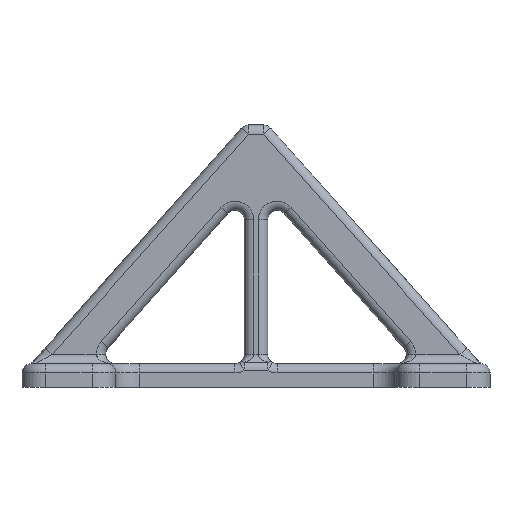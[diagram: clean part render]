
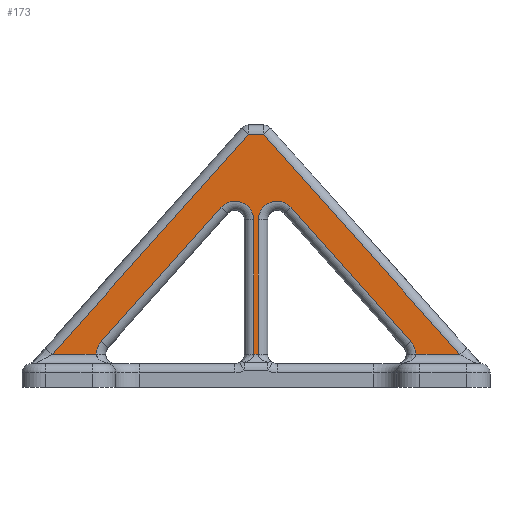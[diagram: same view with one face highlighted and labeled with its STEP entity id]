
A CAD part, left-side view. The second image highlights one B-rep face of the part: STEP entity #173.
In plain terms, the highlighted planar face has unit normal (-1, 0, 0).
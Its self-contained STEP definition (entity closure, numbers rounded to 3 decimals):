
#9 = CARTESIAN_POINT ( 'NONE',  ( -29., 7.485, 38.396 ) ) ;
#24 = CARTESIAN_POINT ( 'NONE',  ( -29., -43.535, 7. ) ) ;
#29 = CARTESIAN_POINT ( 'NONE',  ( -29., 33.119, 9.663 ) ) ;
#30 = CARTESIAN_POINT ( 'NONE',  ( -29., 43.535, 7. ) ) ;
#31 = CARTESIAN_POINT ( 'NONE',  ( -29., -1.604, 54. ) ) ;
#32 = CARTESIAN_POINT ( 'NONE',  ( -29., 1.604, 54. ) ) ;
#34 = CARTESIAN_POINT ( 'NONE',  ( -29., -7.485, 38.396 ) ) ;
#35 = CARTESIAN_POINT ( 'NONE',  ( -29., 34.134, 7. ) ) ;
#36 = CARTESIAN_POINT ( 'NONE',  ( -29., -33.119, 9.663 ) ) ;
#37 = CARTESIAN_POINT ( 'NONE',  ( -29., -34.134, 7. ) ) ;
#173 = ADVANCED_FACE ( 'NONE', ( #2105 ), #5973, .F. ) ;
#380 = AXIS2_PLACEMENT_3D ( 'NONE', #5971, #5976, #5977 ) ;
#804 = AXIS2_PLACEMENT_3D ( 'NONE', #1929, #1930, #1931 ) ;
#805 = AXIS2_PLACEMENT_3D ( 'NONE', #1938, #1939, #1940 ) ;
#806 = AXIS2_PLACEMENT_3D ( 'NONE', #1943, #1944, #1945 ) ;
#807 = AXIS2_PLACEMENT_3D ( 'NONE', #1956, #1957, #1958 ) ;
#1666 = LINE ( 'NONE', #1928, #1771 ) ;
#1767 = CIRCLE ( 'NONE', #804, 4. ) ;
#1770 = LINE ( 'NONE', #1932, #1773 ) ;
#1771 = VECTOR ( 'NONE', #1922, 1000. ) ;
#1772 = LINE ( 'NONE', #1934, #1775 ) ;
#1773 = VECTOR ( 'NONE', #1933, 1000. ) ;
#1774 = CIRCLE ( 'NONE', #805, 4. ) ;
#1775 = VECTOR ( 'NONE', #1935, 1000. ) ;
#1776 = LINE ( 'NONE', #1927, #1778 ) ;
#1777 = CIRCLE ( 'NONE', #806, 4. ) ;
#1778 = VECTOR ( 'NONE', #1926, 1000. ) ;
#1779 = LINE ( 'NONE', #1936, #1781 ) ;
#1780 = LINE ( 'NONE', #1946, #1783 ) ;
#1781 = VECTOR ( 'NONE', #1937, 1000. ) ;
#1782 = LINE ( 'NONE', #1948, #1785 ) ;
#1783 = VECTOR ( 'NONE', #1947, 1000. ) ;
#1784 = LINE ( 'NONE', #1950, #1787 ) ;
#1785 = VECTOR ( 'NONE', #1949, 1000. ) ;
#1786 = LINE ( 'NONE', #1952, #1789 ) ;
#1787 = VECTOR ( 'NONE', #1951, 1000. ) ;
#1788 = CIRCLE ( 'NONE', #807, 4. ) ;
#1789 = VECTOR ( 'NONE', #1953, 1000. ) ;
#1790 = LINE ( 'NONE', #1941, #1792 ) ;
#1792 = VECTOR ( 'NONE', #1942, 1000. ) ;
#1922 = DIRECTION ( 'NONE',  ( 0., 0., -1. ) ) ;
#1926 = DIRECTION ( 'NONE',  ( 0., -0.666, -0.746 ) ) ;
#1927 = CARTESIAN_POINT ( 'NONE',  ( -29., -17.582, 27.078 ) ) ;
#1928 = CARTESIAN_POINT ( 'NONE',  ( -29., 0.5, 56. ) ) ;
#1929 = CARTESIAN_POINT ( 'NONE',  ( -29., 4.5, 35.733 ) ) ;
#1930 = DIRECTION ( 'NONE',  ( 1., 0., 0. ) ) ;
#1931 = DIRECTION ( 'NONE',  ( 0., 1., 0. ) ) ;
#1932 = CARTESIAN_POINT ( 'NONE',  ( -29., -2.5, 7. ) ) ;
#1933 = DIRECTION ( 'NONE',  ( 0., -1., 0. ) ) ;
#1934 = CARTESIAN_POINT ( 'NONE',  ( -29., -0.5, 56. ) ) ;
#1935 = DIRECTION ( 'NONE',  ( 0., 0., 1. ) ) ;
#1936 = CARTESIAN_POINT ( 'NONE',  ( -29., -48., 7. ) ) ;
#1937 = DIRECTION ( 'NONE',  ( 0., -1., 0. ) ) ;
#1938 = CARTESIAN_POINT ( 'NONE',  ( -29., -4.5, 35.733 ) ) ;
#1939 = DIRECTION ( 'NONE',  ( 1., 0., 0. ) ) ;
#1940 = DIRECTION ( 'NONE',  ( 0., 1., 0. ) ) ;
#1941 = CARTESIAN_POINT ( 'NONE',  ( -29., -26.737, 76.754 ) ) ;
#1942 = DIRECTION ( 'NONE',  ( 0., -0.666, 0.746 ) ) ;
#1943 = CARTESIAN_POINT ( 'NONE',  ( -29., -30.134, 7. ) ) ;
#1944 = DIRECTION ( 'NONE',  ( 1., 0., 0. ) ) ;
#1945 = DIRECTION ( 'NONE',  ( 0., 1., 0. ) ) ;
#1946 = CARTESIAN_POINT ( 'NONE',  ( -29., -22.059, 31.072 ) ) ;
#1947 = DIRECTION ( 'NONE',  ( 0., 0.666, 0.746 ) ) ;
#1948 = CARTESIAN_POINT ( 'NONE',  ( -29., 2.5, 54. ) ) ;
#1949 = DIRECTION ( 'NONE',  ( 0., 1., 0. ) ) ;
#1950 = CARTESIAN_POINT ( 'NONE',  ( -29., -22.26, 80.749 ) ) ;
#1951 = DIRECTION ( 'NONE',  ( 0., 0.666, -0.746 ) ) ;
#1952 = CARTESIAN_POINT ( 'NONE',  ( -29., 34.599, 7. ) ) ;
#1953 = DIRECTION ( 'NONE',  ( 0., -1., 0. ) ) ;
#1956 = CARTESIAN_POINT ( 'NONE',  ( -29., 30.134, 7. ) ) ;
#1957 = DIRECTION ( 'NONE',  ( 1., 0., 0. ) ) ;
#1958 = DIRECTION ( 'NONE',  ( 0., 1., 0. ) ) ;
#2105 = FACE_OUTER_BOUND ( 'NONE', #6471, .T. ) ;
#3337 = CARTESIAN_POINT ( 'NONE',  ( -29., -0.5, 35.733 ) ) ;
#3343 = CARTESIAN_POINT ( 'NONE',  ( -29., -0.5, 7. ) ) ;
#3346 = CARTESIAN_POINT ( 'NONE',  ( -29., 0.5, 7. ) ) ;
#3354 = CARTESIAN_POINT ( 'NONE',  ( -29., 0.5, 35.733 ) ) ;
#4342 = ORIENTED_EDGE ( 'NONE', *, *, #6967, .T. ) ;
#4346 = ORIENTED_EDGE ( 'NONE', *, *, #6966, .T. ) ;
#4357 = ORIENTED_EDGE ( 'NONE', *, *, #6965, .T. ) ;
#4377 = ORIENTED_EDGE ( 'NONE', *, *, #6983, .T. ) ;
#4380 = ORIENTED_EDGE ( 'NONE', *, *, #6986, .T. ) ;
#4391 = ORIENTED_EDGE ( 'NONE', *, *, #6978, .T. ) ;
#4392 = ORIENTED_EDGE ( 'NONE', *, *, #6970, .T. ) ;
#4393 = ORIENTED_EDGE ( 'NONE', *, *, #6975, .T. ) ;
#4394 = ORIENTED_EDGE ( 'NONE', *, *, #6969, .T. ) ;
#4395 = ORIENTED_EDGE ( 'NONE', *, *, #6972, .T. ) ;
#4396 = ORIENTED_EDGE ( 'NONE', *, *, #6968, .T. ) ;
#4405 = ORIENTED_EDGE ( 'NONE', *, *, #7095, .T. ) ;
#4419 = ORIENTED_EDGE ( 'NONE', *, *, #7030, .T. ) ;
#4423 = ORIENTED_EDGE ( 'NONE', *, *, #6996, .T. ) ;
#5012 = VERTEX_POINT ( 'NONE', #3337 ) ;
#5016 = VERTEX_POINT ( 'NONE', #3343 ) ;
#5020 = VERTEX_POINT ( 'NONE', #3346 ) ;
#5032 = VERTEX_POINT ( 'NONE', #3354 ) ;
#5042 = VERTEX_POINT ( 'NONE', #9 ) ;
#5085 = VERTEX_POINT ( 'NONE', #29 ) ;
#5089 = VERTEX_POINT ( 'NONE', #31 ) ;
#5091 = VERTEX_POINT ( 'NONE', #32 ) ;
#5095 = VERTEX_POINT ( 'NONE', #35 ) ;
#5099 = VERTEX_POINT ( 'NONE', #30 ) ;
#5101 = VERTEX_POINT ( 'NONE', #24 ) ;
#5105 = VERTEX_POINT ( 'NONE', #34 ) ;
#5107 = VERTEX_POINT ( 'NONE', #37 ) ;
#5109 = VERTEX_POINT ( 'NONE', #36 ) ;
#5971 = CARTESIAN_POINT ( 'NONE',  ( -29., -50., 56. ) ) ;
#5973 = PLANE ( 'NONE',  #380 ) ;
#5976 = DIRECTION ( 'NONE',  ( 1., 0., 0. ) ) ;
#5977 = DIRECTION ( 'NONE',  ( 0., 1., 0. ) ) ;
#6471 = EDGE_LOOP ( 'NONE', ( #4357, #4346, #4342, #4396, #4394, #4392, #4395, #4393, #4391, #4377, #4380, #4423, #4419, #4405 ) ) ;
#6965 = EDGE_CURVE ( 'NONE', #5042, #5032, #1767, .T. ) ;
#6966 = EDGE_CURVE ( 'NONE', #5032, #5020, #1666, .T. ) ;
#6967 = EDGE_CURVE ( 'NONE', #5020, #5016, #1770, .T. ) ;
#6968 = EDGE_CURVE ( 'NONE', #5016, #5012, #1772, .T. ) ;
#6969 = EDGE_CURVE ( 'NONE', #5012, #5105, #1774, .T. ) ;
#6970 = EDGE_CURVE ( 'NONE', #5105, #5109, #1776, .T. ) ;
#6972 = EDGE_CURVE ( 'NONE', #5109, #5107, #1777, .T. ) ;
#6975 = EDGE_CURVE ( 'NONE', #5107, #5101, #1779, .T. ) ;
#6978 = EDGE_CURVE ( 'NONE', #5101, #5089, #1780, .T. ) ;
#6983 = EDGE_CURVE ( 'NONE', #5089, #5091, #1782, .T. ) ;
#6986 = EDGE_CURVE ( 'NONE', #5091, #5099, #1784, .T. ) ;
#6996 = EDGE_CURVE ( 'NONE', #5099, #5095, #1786, .T. ) ;
#7030 = EDGE_CURVE ( 'NONE', #5095, #5085, #1788, .T. ) ;
#7095 = EDGE_CURVE ( 'NONE', #5085, #5042, #1790, .T. ) ;
